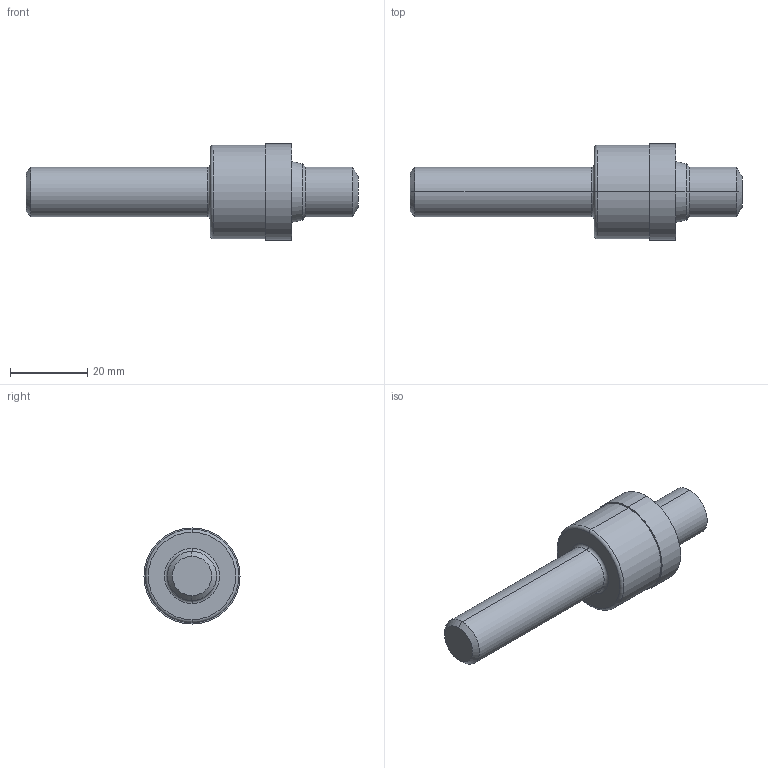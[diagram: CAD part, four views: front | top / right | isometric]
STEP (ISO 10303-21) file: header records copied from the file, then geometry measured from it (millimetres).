
FILE_DESCRIPTION (( 'STEP AP214' ), '1' );
FILE_NAME ('MS16142-6R-SolidModel.STEP', '2018-06-22T17:59:30', ( '' ), ( '' ), 'SwSTEP 2.0', 'SolidWorks 2018', '' );
FILE_SCHEMA (( 'AUTOMOTIVE_DESIGN' ));
Length unit declared in the file: inch
Products named in the file (1): MS16142-6R-SolidModel
Bounding box: 85.85 x 24.87 x 24.87 mm (x, y, z)
Volume: 18144.9 mm3; surface area: 5039.5 mm2
Topology: 1 solids, 1 shells, 25 faces, 48 edges, 28 vertices
Faces by surface type: cone 8, cylinder 8, plane 5, torus 4
Entity records: 678 total; most frequent: DIRECTION 132, CARTESIAN_POINT 102, ORIENTED_EDGE 96, AXIS2_PLACEMENT_3D 58, EDGE_CURVE 48, CIRCLE 32, EDGE_LOOP 28, VERTEX_POINT 28
